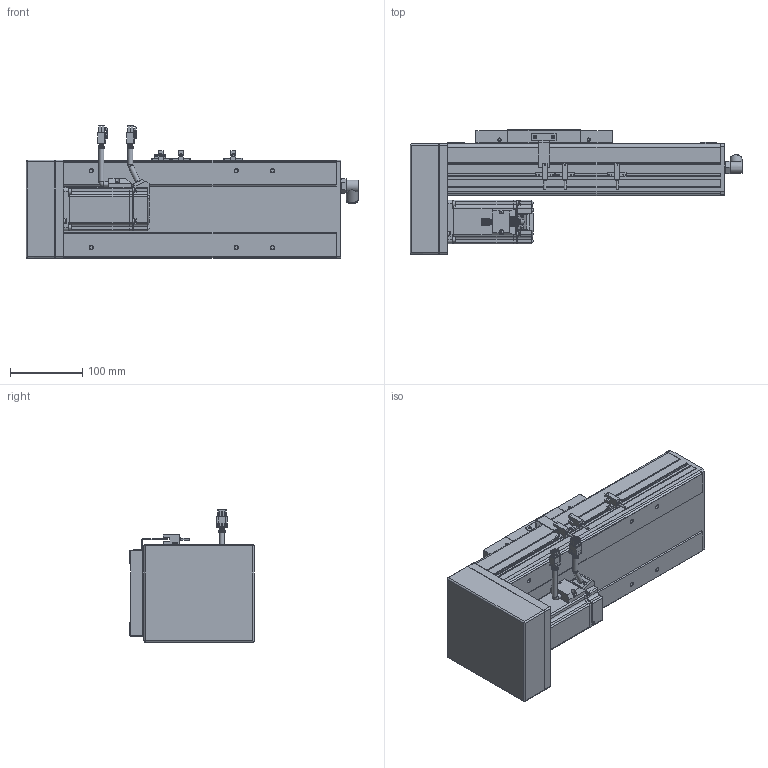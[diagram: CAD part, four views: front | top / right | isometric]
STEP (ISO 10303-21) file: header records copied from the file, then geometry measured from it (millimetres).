
FILE_DESCRIPTION(/* description */ ('STEP AP214'),/* implementation_level */ '2;1');
FILE_NAME(/* name */ 'PSC140-L05-S100-BM-P40-C1-N(0)',/* time_stamp */ '2022-06-13T03:20:16+02:00',/* author */ ('License CC BY-ND 4.0'),/* organization */ ('CADENAS'),/* preprocessor_version */ 'ST-DEVELOPER v18.102',/* originating_system */ 'PARTsolutions',/* authorisation */ ' ');
FILE_SCHEMA (('AUTOMOTIVE_DESIGN {1 0 10303 214 3 1 1}'));
Length unit declared in the file: millimetre
Products named in the file (11): PSC140-L05-S100-BM-P40-C1-N(0); P40-s2; P40-c2; P40-s1; P40-c1; P40-p1; PSC140-BM-body2; PSC140-sensor; PSC140-BM-SLIDER; PSC140-S100-BM-P40-C1_BODY1; PSC140-L05-S100-BM-P40-C1-N(0)_dummy
Assembly tree (12 placements, depth 2):
  PSC140-L05-S100-BM-P40-C1-N(0)
    P40-s2
    P40-c2
    P40-s1
    P40-c1
    P40-p1
    PSC140-BM-body2
    PSC140-sensor  x3
    PSC140-BM-SLIDER
    PSC140-S100-BM-P40-C1_BODY1
    PSC140-L05-S100-BM-P40-C1-N(0)_dummy
Bounding box: 458 x 171.5 x 182.48 mm (x, y, z)
Volume: 5464376.3 mm3; surface area: 390483.3 mm2
Topology: 11 solids, 11 shells, 1213 faces, 3149 edges, 2085 vertices
Faces by surface type: plane 852, cylinder 308, cone 34, torus 19
Full cylindrical faces by diameter (mm): 1 x8, 2.6 x10, 2.8 x3, 3.3 x8, 4.5 x12, 4.6 x3, 4.917 x10, 5 x4, 5.5 x8, 6 x10, 7 x10, 9 x2, 10 x1, 11 x1, 12 x1, 13.74 x1, 14 x1, 16.4 x2, 16.5 x1, 36 x1, 50 x2
Entity records: 33726 total; most frequent: CARTESIAN_POINT 5899, DIRECTION 5659, ORIENTED_EDGE 5498, EDGE_CURVE 2749, LINE 2097, VECTOR 2097, VERTEX_POINT 1906, AXIS2_PLACEMENT_3D 1781
